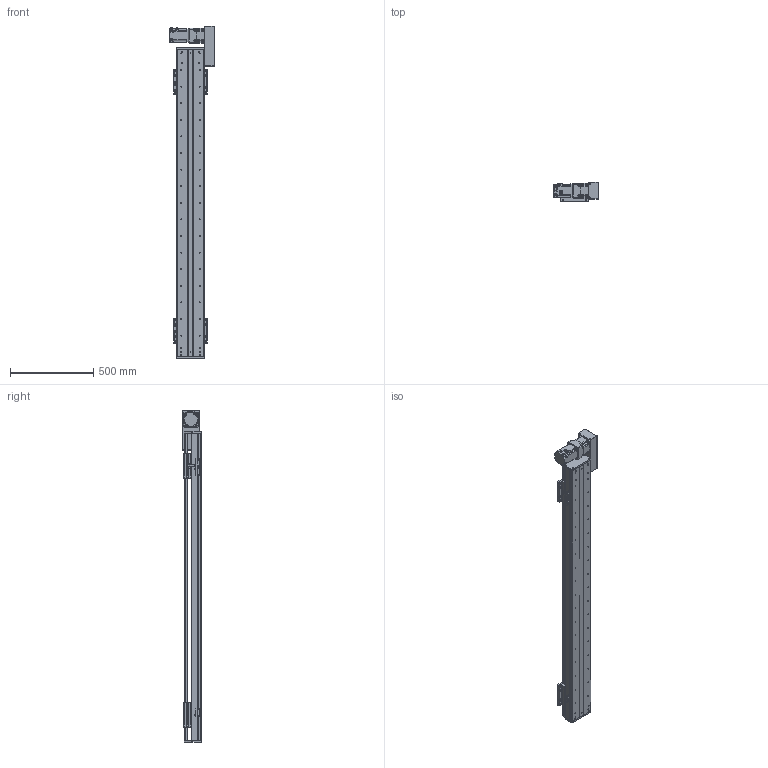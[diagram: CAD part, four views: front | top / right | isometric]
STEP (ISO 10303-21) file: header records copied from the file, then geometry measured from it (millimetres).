
FILE_DESCRIPTION(/* description */ (''),/* implementation_level */ '2;1');
FILE_NAME(/* name */ 'C:\Users\PC\Desktop\3D도면\STEP\DSB165-R7G-W1500-L.stp',/* time_stamp */ '2018-06-25T14:40:54+09:00',/* author */ ('PC'),/* organization */ (''),/* preprocessor_version */ 'ST-DEVELOPER v16.5',/* originating_system */ 'Autodesk Inventor 2017',/* authorisation */ '');
FILE_SCHEMA (('AUTOMOTIVE_DESIGN { 1 0 10303 214 3 1 1 }'));
Length unit declared in the file: millimetre
Products named in the file (12): DSB165-L7G-W1500-R_MIR; DSB165-BASE-L_MIR; hg-kr73__MIR; ab0901-p0401300102_MIR; 11-DSB165 BELT COVER_MIR; 12-DSB165-REAR COVER_MIR; 14-DSB165-FRONT COVER_MIR; DSB165-UP COVER_MIR; DSB165-TABLE(MSB20S)_MIR; DSR165-SENSOR DOG_MIR; pm-y65_step_MIR; SENSOR BRACKET(EE-SX674A)_MIR
Assembly tree (16 placements, depth 2):
  DSB165-L7G-W1500-R_MIR
    DSB165-BASE-L_MIR
    hg-kr73__MIR
    ab0901-p0401300102_MIR
    11-DSB165 BELT COVER_MIR
    12-DSB165-REAR COVER_MIR
    14-DSB165-FRONT COVER_MIR
    DSB165-UP COVER_MIR
    DSB165-TABLE(MSB20S)_MIR  x2
    DSR165-SENSOR DOG_MIR
    pm-y65_step_MIR  x3
    SENSOR BRACKET(EE-SX674A)_MIR  x3
Bounding box: 270 x 115 x 2000 mm (x, y, z)
Volume: 11152549.5 mm3; surface area: 2595848.7 mm2
Topology: 17 solids, 17 shells, 1689 faces, 4534 edges, 2984 vertices
Faces by surface type: plane 921, cylinder 630, cone 126, sphere 8, torus 4
Full cylindrical faces by diameter (mm): 2.459 x20, 3.5 x6, 4.134 x42, 4.5 x18, 5 x27, 5.5 x36, 5.9 x4, 6 x4, 6.6 x14, 6.647 x54, 6.8 x1, 7 x4, 7.6 x4, 8.4 x1, 8.5 x24, 8.7 x1, 9.5 x32, 11 x6, 14 x16, 19 x1, 22 x1, 24 x1, 25 x1, 28 x1, 67 x1, 70 x2, 80 x1
Entity records: 36592 total; most frequent: DIRECTION 6346, CARTESIAN_POINT 6135, ORIENTED_EDGE 5578, EDGE_CURVE 2789, AXIS2_PLACEMENT_3D 2343, VERTEX_POINT 1994, EDGE_LOOP 1775, LINE 1660
